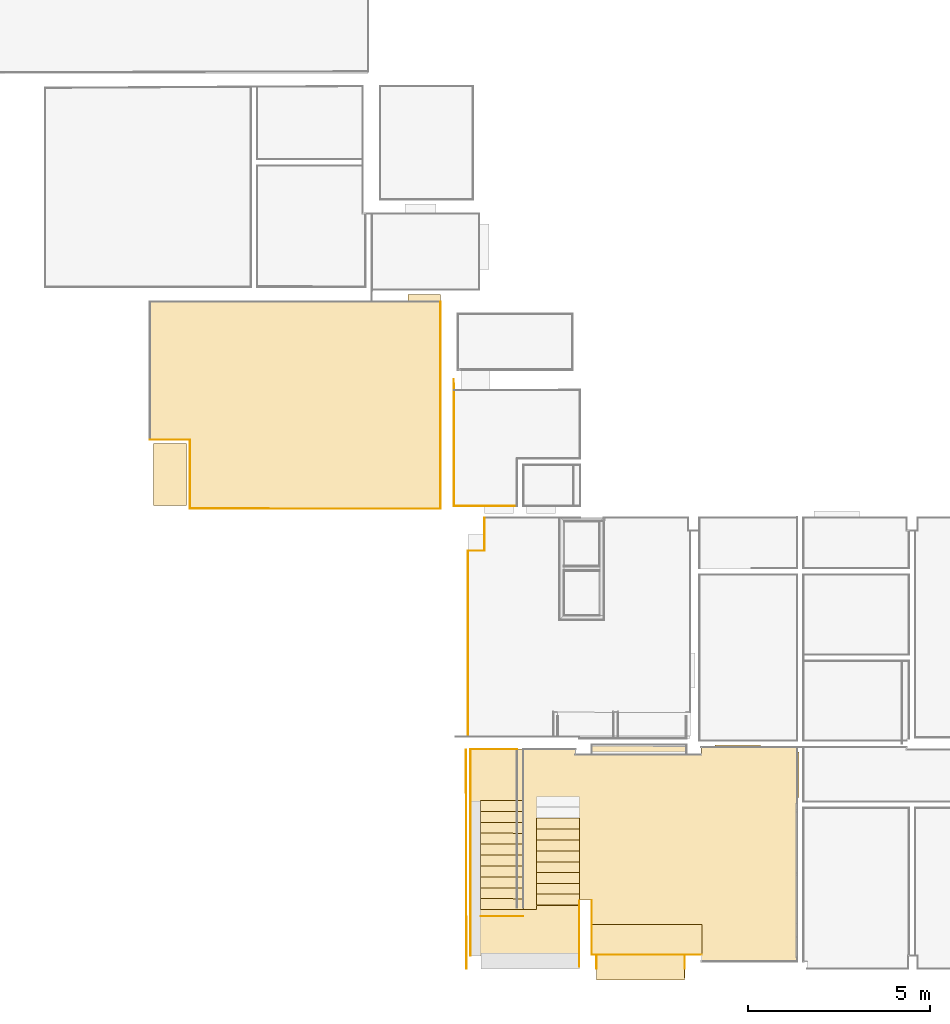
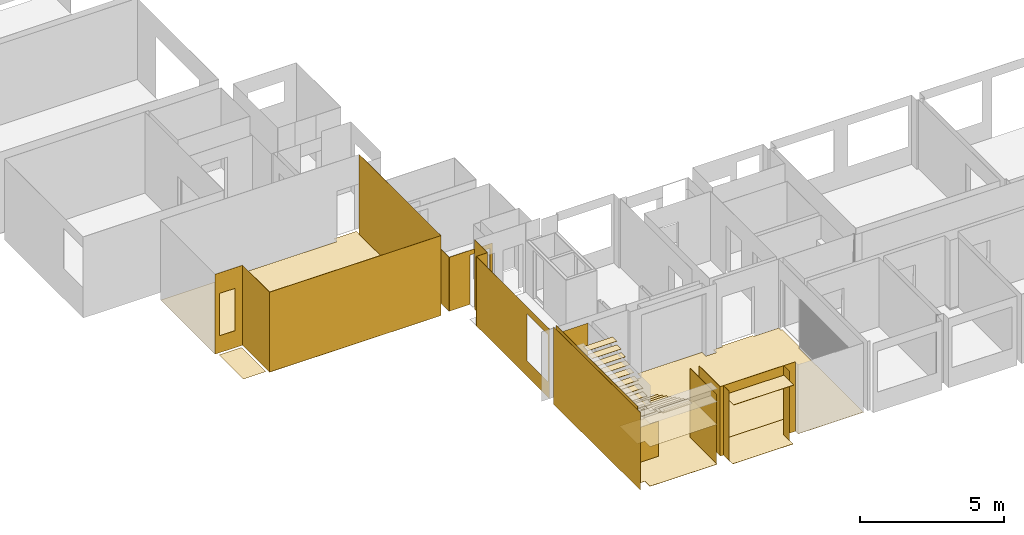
# One storey, part 2 of 33: 42 coverings, 4 openings.
"""IFC2X3 building model written with IfcOpenShell, lengths in millimetres."""

from ifc_helpers import new_model, entity, si_unit, converted_unit, derived_unit, money_unit, direction, frame, origin_with_axes, origin_2d_with_axis, place, context, subcontext, project, spatial, polyline, rectangle, outline, extrude, material, type_object, element, save


model = new_model("IFC2X3")

# Units and contexts
model_context = context("Model", 3, precision=0.01, world=origin_with_axes(), true_north=direction((0.0, 1.0)))
body_context = subcontext(model_context, "Body", "Model", "MODEL_VIEW")
ifc_project = project(units=[si_unit("LENGTHUNIT", "METRE", prefix="MILLI"), si_unit("AREAUNIT", "SQUARE_METRE"), si_unit("VOLUMEUNIT", "CUBIC_METRE"), converted_unit("PLANEANGLEUNIT", "DEGREE", entity("IfcPlaneAngleMeasure", 0.0174532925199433), si_unit("PLANEANGLEUNIT", "RADIAN"), dimensions=[0, 0, 0, 0, 0, 0, 0]), money_unit("EUR"), converted_unit("TIMEUNIT", "Year", entity("IfcTimeMeasure", 31556926.0), si_unit("TIMEUNIT", "SECOND"), dimensions=[0, 0, 1, 0, 0, 0, 0]), si_unit("MASSUNIT", "GRAM", prefix="KILO"), si_unit("THERMODYNAMICTEMPERATUREUNIT", "DEGREE_CELSIUS"), si_unit("LUMINOUSINTENSITYUNIT", "LUMEN"), si_unit("ENERGYUNIT", "JOULE", prefix="MEGA"), derived_unit("THERMALCONDUCTANCEUNIT", [(si_unit("POWERUNIT", "WATT"), 1), (si_unit("LENGTHUNIT", "METRE"), -1), (si_unit("THERMODYNAMICTEMPERATUREUNIT", "KELVIN"), -1)]), derived_unit("SPECIFICHEATCAPACITYUNIT", [(si_unit("ENERGYUNIT", "JOULE"), 1), (si_unit("MASSUNIT", "GRAM", prefix="KILO"), -1), (si_unit("THERMODYNAMICTEMPERATUREUNIT", "KELVIN"), -1)]), derived_unit("MASSDENSITYUNIT", [(si_unit("MASSUNIT", "GRAM", prefix="KILO"), 1), (si_unit("VOLUMEUNIT", "CUBIC_METRE"), -1)])], contexts=[model_context])

# Site, building, storey
site_placement = place(None, origin_with_axes())
site = spatial("IfcSite", under=ifc_project, at=site_placement, Name="Paldiski mnt 245/1, Tallinn, Harjumaa", CompositionType="COMPLEX")
building_placement = place(site_placement, origin_with_axes())
building = spatial("IfcBuilding", under=site, at=building_placement, Name="RKAS Hoone üldnimetus (kasutust iseloomustav) -> IFC Project Manager -> SOLIBRI", CompositionType="ELEMENT")
storey_placement = place(building_placement, origin_with_axes())
storey = spatial("IfcBuildingStorey", under=building, at=storey_placement, Name="Esimene korrus", CompositionType="ELEMENT", Elevation=0.0)

# Coverings
ifc_material_1 = material(Name="SA- PM-7 plaat 15x15")
covering_type_1 = type_object("IfcCoveringType", Name="SA- PM-7 plaat 15x15 8", PredefinedType="FLOORING")
covering_1_placement = place(storey_placement, frame((-45768.8585904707, -10765.39835774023, 1690.0), z_axis=(0.0, 0.0, 1.0), x_axis=(1.0, 0.0, 0.0)))
element("IfcCovering", 1, at=covering_1_placement, inside=storey, type_object=covering_type_1, material=ifc_material_1, Name="PM-7", PredefinedType="FLOORING", context=body_context, shape_type="SweptSolid", body=[
    extrude(outline(polyline([(0.0, 0.0), (-0.07628356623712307, -116.3112699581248), (-1820.075892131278, -115.1176103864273), (-1820.901998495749, -1374.700573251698), (-1520.902063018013, -1374.897330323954), (-1521.141409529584, -1744.685729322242), (1178.861247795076, -1736.668066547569), (1179.999746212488, -0.7739111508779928), (0.0, 0.0)])), origin_with_axes(), (0.0, 0.0, 1.0), 8.0),
])
ifc_material_2 = material(Name="SA- Värv SM10(tumehall)")
covering_type_2 = type_object("IfcCoveringType", Name="SA- Värv SM10(tumehall) 5", PredefinedType="CLADDING")
covering_2_placement = place(storey_placement, frame((-41695.45516723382, -12814.12328755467, 2544.121874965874), z_axis=(0.0, 0.0, 1.0), x_axis=(1.0, 0.0, 0.0)))
element("IfcCovering", 2, at=covering_2_placement, inside=storey, type_object=covering_type_2, material=ifc_material_2, Name="SM10", PredefinedType="CLADDING", context=body_context, shape_type="SweptSolid", body=[
    extrude(outline(polyline([(0.0, 0.0), (0.4550369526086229, 693.813820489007), (-2417.101255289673, 695.3994116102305), (-2416.374271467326, 1.475948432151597), (0.0, 0.0)])), origin_with_axes(), (0.0, 0.0, 1.0), 5.0),
])

# Covering, opening
covering_3_placement = place(storey_placement, frame((-41229.98168134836, -12120.18477017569, 0.0), z_axis=(0.0, 0.0, 1.0), x_axis=(-0.9999998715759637, 0.0005068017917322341, 0.0)))
covering_3 = element("IfcCovering", 3, at=covering_3_placement, inside=storey, type_object=covering_type_2, material=ifc_material_2, Name="SM10", PredefinedType="CLADDING", context=body_context, shape_type="SweptSolid", body=[
    extrude(outline(polyline([(-4.997948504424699, -5.000000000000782), (3014.744217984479, -5.000000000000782), (3019.740751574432, 0.0), (0.0, 0.0), (-4.997948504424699, -5.000000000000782)])), origin_with_axes(), (0.0, 0.0, 1.0), 2950.0),
])
opening_1_placement = place(covering_3_placement, frame((-41223.83385507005, -12141.07864224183, 0.0), z_axis=(0.0, 0.0, 1.0), x_axis=(-0.9999998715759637, -0.0005068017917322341, 0.0)))
element("IfcOpeningElement", 4, at=opening_1_placement, cuts=covering_3, Name="AVA", ObjectType="OPENING", context=body_context, shape_type="SweptSolid", body=[
    extrude(outline(polyline([(-1208.778410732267, -1272.060937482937), (1208.778410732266, -1272.060937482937), (1208.778410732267, 1272.060937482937), (-1208.778410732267, 1272.060937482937), (-1208.778410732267, -1272.060937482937)])), frame((-42903.77197769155, -12107.123951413, 1272.060937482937), z_axis=(0.0005068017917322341, 0.9999998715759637, 0.0), x_axis=(-0.9999998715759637, 0.0005068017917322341, 0.0)), (0.0, 0.0, -1.0), 19.5912306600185),
])

# Coverings
covering_4_placement = place(storey_placement, frame((-41691.32033801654, -12510.23186306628, 0.0), z_axis=(0.0, 0.0, 1.0), x_axis=(0.003384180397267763, 0.9999942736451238, 0.0)))
element("IfcCovering", 5, at=covering_4_placement, inside=storey, type_object=covering_type_2, material=ifc_material_2, Name="SM10", PredefinedType="CLADDING", context=body_context, shape_type="SweptSolid", body=[
    extrude(outline(polyline([(0.0, 0.0), (390.1500101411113, 0.0), (390.1500101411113, 5.000000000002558), (0.0, 5.000000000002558), (0.0, 0.0)])), origin_with_axes(), (0.0, 0.0, 1.0), 2950.0),
])
covering_5_placement = place(storey_placement, frame((-44117.14645403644, -12510.08430107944, 0.0), z_axis=(0.0, 0.0, 1.0), x_axis=(-0.003867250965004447, 0.9999925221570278, 0.0)))
element("IfcCovering", 6, at=covering_5_placement, inside=storey, type_object=covering_type_2, material=ifc_material_2, Name="SM10", PredefinedType="CLADDING", context=body_context, shape_type="SweptSolid", body=[
    extrude(outline(polyline([(-0.01933639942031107, -5.000000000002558), (391.3445745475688, -5.000000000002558), (391.3664449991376, 0.0), (0.0, 0.0), (-0.01933639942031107, -5.000000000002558)])), origin_with_axes(), (0.0, 0.0, 1.0), 2950.0),
])

# Covering, opening
ifc_material_3 = material(Name="SA- Värv SM5(valge)")
covering_type_3 = type_object("IfcCoveringType", Name="SA- Värv SM5(valge) 5", PredefinedType="CLADDING")
covering_6_placement = place(storey_placement, frame((-47650.00000000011, -6130.084087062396, 0.0), z_axis=(0.0, 0.0, 1.0), x_axis=(0.0, 1.0, 0.0)))
covering_6 = element("IfcCovering", 7, at=covering_6_placement, inside=storey, type_object=covering_type_3, material=ifc_material_3, Name="SM5", PredefinedType="CLADDING", context=body_context, shape_type="SweptSolid", body=[
    extrude(outline(polyline([(4.999999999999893, -5.000000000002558), (5110.084087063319, -5.000000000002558), (5115.084087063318, 0.0), (4.999999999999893, 0.0), (4.999999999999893, -5.000000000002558)])), origin_with_axes(), (0.0, 0.0, 1.0), 2950.0),
])
opening_2_placement = place(covering_6_placement, frame((6130.084087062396, -47650.00000000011, 0.0), z_axis=(0.0, 0.0, 1.0), x_axis=(0.0, -1.0, 0.0)))
element("IfcOpeningElement", 8, at=opening_2_placement, cuts=covering_6, Name="AVA", ObjectType="OPENING", context=body_context, shape_type="SweptSolid", body=[
    extrude(rectangle(XDim=1472.206552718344, YDim=2000.0, at=origin_2d_with_axis()), frame((-47640.0000000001, -5286.187360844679, 1650.0), z_axis=(1.0, 0.0, 0.0), x_axis=(0.0, 1.0, 0.0)), (0.0, 0.0, -1.0), 15.00000000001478),
])

# Coverings
covering_7_placement = place(storey_placement, frame((-47650.00000000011, -1014.999999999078, 0.0), z_axis=(0.0, 0.0, 1.0), x_axis=(1.0, 0.0, 0.0)))
element("IfcCovering", 9, at=covering_7_placement, inside=storey, type_object=covering_type_3, material=ifc_material_3, Name="SM5", PredefinedType="CLADDING", context=body_context, shape_type="SweptSolid", body=[
    extrude(outline(polyline([(1.27897692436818e-10, -4.999999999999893), (460.0001318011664, -4.999999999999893), (455.0001310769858, 0.0), (1.27897692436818e-10, 0.0), (1.27897692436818e-10, -4.999999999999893)])), origin_with_axes(), (0.0, 0.0, 1.0), 2950.0),
])
covering_8_placement = place(storey_placement, frame((-47590.00000000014, -6470.084079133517, 0.0), z_axis=(0.0, 0.0, 1.0), x_axis=(1.0, -6.14405201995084e-09, 0.0)))
element("IfcCovering", 10, at=covering_8_placement, inside=storey, type_object=covering_type_3, material=ifc_material_3, Name="SM5", PredefinedType="CLADDING", context=body_context, shape_type="SweptSolid", body=[
    extrude(outline(polyline([(3.073097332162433e-08, -4.999999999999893), (1290.000000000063, -4.999999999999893), (1290.000000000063, 0.0), (0.0, 0.0), (3.073097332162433e-08, -4.999999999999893)])), origin_with_axes(), (0.0, 0.0, 1.0), 2950.0),
])
covering_9_placement = place(storey_placement, frame((-47705.60058258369, -6479.999968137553, 0.0), z_axis=(0.0, 0.0, 1.0), x_axis=(0.002610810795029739, -0.9999965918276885, 0.0)))
element("IfcCovering", 11, at=covering_9_placement, inside=storey, type_object=covering_type_3, material=ifc_material_3, Name="SM5", PredefinedType="CLADDING", context=body_context, shape_type="SweptSolid", body=[
    extrude(outline(polyline([(0.0, 0.0), (6030.104670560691, 0.0), (6030.104670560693, 5.000000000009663), (0.0, 5.000000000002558), (0.0, 0.0)])), origin_with_axes(), (0.0, 0.0, 1.0), 3300.0),
])
covering_10_placement = place(storey_placement, frame((-47194.99986892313, -1014.999999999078, 0.0), z_axis=(0.0, 0.0, 1.0), x_axis=(-1.448363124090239e-07, 0.9999999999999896, 0.0)))
element("IfcCovering", 12, at=covering_10_placement, inside=storey, type_object=covering_type_3, material=ifc_material_3, Name="SM5", PredefinedType="CLADDING", context=body_context, shape_type="SweptSolid", body=[
    extrude(outline(polyline([(-5.000000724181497, -5.000000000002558), (900.0000265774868, -5.000000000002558), (905.000027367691, 0.0), (0.0, 0.0), (-5.000000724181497, -5.000000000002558)])), origin_with_axes(), (0.0, 0.0, 1.0), 2950.0),
])
covering_11_placement = place(storey_placement, frame((-44590.00000000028, -10630.04021393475, 0.0), z_axis=(0.0, 0.0, 1.0), x_axis=(3.839271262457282e-06, -0.99999999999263, 0.0)))
element("IfcCovering", 13, at=covering_11_placement, inside=storey, type_object=covering_type_3, material=ifc_material_3, Name="SM5", PredefinedType="CLADDING", context=body_context, shape_type="SweptSolid", body=[
    extrude(outline(polyline([(0.0, -5.000000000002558), (1818.433020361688, -5.000000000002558), (1818.433020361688, 0.0), (0.0, 0.0), (0.0, -5.000000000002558)])), origin_with_axes(), (0.0, 0.0, 1.0), 2950.0),
])
covering_12_placement = place(storey_placement, frame((-44249.7220451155, -12118.65436015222, 0.0), z_axis=(0.0, 0.0, 1.0), x_axis=(-0.0001867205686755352, 0.9999999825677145, 0.0)))
element("IfcCovering", 14, at=covering_12_placement, inside=storey, type_object=covering_type_3, material=ifc_material_3, Name="SM5", PredefinedType="CLADDING", context=body_context, shape_type="SweptSolid", body=[
    extrude(outline(polyline([(4.996533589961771, -5.000000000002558), (1493.613238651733, -5.000000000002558), (1488.614172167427, 0.0), (0.0, 0.0), (4.996533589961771, -5.000000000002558)])), origin_with_axes(), (0.0, 0.0, 1.0), 2950.0),
])
covering_13_placement = place(storey_placement, frame((-46130.00000000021, -11060.50085329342, 0.0), z_axis=(0.0, 0.0, 1.0), x_axis=(-0.9999960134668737, -0.002823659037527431, 0.0)))
element("IfcCovering", 15, at=covering_13_placement, inside=storey, type_object=covering_type_3, material=ifc_material_3, Name="SM6", PredefinedType="CLADDING", context=body_context, shape_type="SweptSolid", body=[
    extrude(outline(polyline([(0.0, 0.0), (1162.805002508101, 0.0), (1162.805002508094, 4.999999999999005), (0.0, 5.000000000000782), (0.0, 0.0)])), origin_with_axes(), (0.0, 0.0, 1.0), 1500.0),
])
ifc_material_4 = material(Name="SA- PM-4 porivaip")
covering_type_4 = type_object("IfcCoveringType", Name="SA- PM-4 porivaip 10", PredefinedType="FLOORING")
covering_14_placement = place(storey_placement, frame((-44249.74580537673, -12118.64066354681, 0.0), z_axis=(0.0, 0.0, 1.0), x_axis=(1.0, 0.0, 0.0)))
element("IfcCovering", 16, at=covering_14_placement, inside=storey, type_object=covering_type_4, material=ifc_material_4, Name="PM-4", PredefinedType="FLOORING", context=body_context, shape_type="SweptSolid", body=[
    extrude(outline(polyline([(0.0, 0.0), (131.085845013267, -0.08011911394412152), (131.085845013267, -27.64322602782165), (131.1606288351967, -27.64300023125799), (132.8261494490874, -641.4436375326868), (2562.599354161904, -641.4436375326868), (2559.745782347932, -1.443418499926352), (3029.614116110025, -1.443418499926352), (3030.597911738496, 822.9868016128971), (0.541064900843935, 824.9740823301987), (0.0, 0.0)])), origin_with_axes(), (0.0, 0.0, 1.0), 10.0),
])
ifc_material_5 = material(Name="SA- PM-5 plaat 30x30")
covering_type_5 = type_object("IfcCoveringType", Name="SA- PM-5 plaat 30x30 8", PredefinedType="FLOORING")
covering_15_placement = place(storey_placement, frame((-47306.96697210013, -7880.700253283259, 3149.090909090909), z_axis=(0.0, 0.0, 1.0), x_axis=(1.0, 0.0, 0.0)))
element("IfcCovering", 17, at=covering_15_placement, inside=storey, type_object=covering_type_5, material=ifc_material_5, Name="PM-5", PredefinedType="FLOORING", context=body_context, shape_type="SweptSolid", body=[
    extrude(outline(polyline([(0.0, 0.0), (-0.1967570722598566, -299.9999354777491), (1179.802989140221, -300.7738466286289), (1179.999746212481, -0.7739111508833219), (0.0, 0.0)])), origin_with_axes(), (0.0, 0.0, 1.0), 8.0),
])
covering_16_placement = place(storey_placement, frame((-47307.16372917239, -8180.700188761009, 2998.181818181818), z_axis=(0.0, 0.0, 1.0), x_axis=(1.0, 0.0, 0.0)))
element("IfcCovering", 18, at=covering_16_placement, inside=storey, type_object=covering_type_5, material=ifc_material_5, Name="PM-5", PredefinedType="FLOORING", context=body_context, shape_type="SweptSolid", body=[
    extrude(outline(polyline([(0.0, 0.0), (-0.1967570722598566, -299.9999354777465), (1179.802989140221, -300.7738466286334), (1179.999746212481, -0.7739111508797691), (0.0, 0.0)])), origin_with_axes(), (0.0, 0.0, 1.0), 8.0),
])
covering_17_placement = place(storey_placement, frame((-47307.36048624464, -8480.700124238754, 2847.272727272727), z_axis=(0.0, 0.0, 1.0), x_axis=(1.0, 0.0, 0.0)))
element("IfcCovering", 19, at=covering_17_placement, inside=storey, type_object=covering_type_5, material=ifc_material_5, Name="PM-5", PredefinedType="FLOORING", context=body_context, shape_type="SweptSolid", body=[
    extrude(outline(polyline([(0.0, 0.0), (-0.1967570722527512, -299.9999354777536), (1179.802989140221, -300.7738466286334), (1179.999746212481, -0.7739111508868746), (0.0, 0.0)])), origin_with_axes(), (0.0, 0.0, 1.0), 8.0),
])
covering_18_placement = place(storey_placement, frame((-47307.5572433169, -8780.700059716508, 2696.363636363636), z_axis=(0.0, 0.0, 1.0), x_axis=(1.0, 0.0, 0.0)))
element("IfcCovering", 20, at=covering_18_placement, inside=storey, type_object=covering_type_5, material=ifc_material_5, Name="PM-5", PredefinedType="FLOORING", context=body_context, shape_type="SweptSolid", body=[
    extrude(outline(polyline([(0.0, 0.0), (-0.1967570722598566, -299.9999354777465), (1179.802989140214, -300.7738466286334), (1179.999746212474, -0.7739111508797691), (0.0, 0.0)])), origin_with_axes(), (0.0, 0.0, 1.0), 8.0),
])
covering_19_placement = place(storey_placement, frame((-47307.95075746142, -9380.699930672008, 2394.545454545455), z_axis=(0.0, 0.0, 1.0), x_axis=(1.0, 0.0, 0.0)))
element("IfcCovering", 21, at=covering_19_placement, inside=storey, type_object=covering_type_5, material=ifc_material_5, Name="PM-5", PredefinedType="FLOORING", context=body_context, shape_type="SweptSolid", body=[
    extrude(outline(polyline([(0.0, 0.0), (-0.1967570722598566, -299.9999354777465), (1179.802989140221, -300.7738466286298), (1179.999746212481, -0.7739111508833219), (0.0, 0.0)])), origin_with_axes(), (0.0, 0.0, 1.0), 8.0),
])
covering_20_placement = place(storey_placement, frame((-47307.75400038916, -9080.699995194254, 2545.454545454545), z_axis=(0.0, 0.0, 1.0), x_axis=(1.0, 0.0, 0.0)))
element("IfcCovering", 22, at=covering_20_placement, inside=storey, type_object=covering_type_5, material=ifc_material_5, Name="PM-5", PredefinedType="FLOORING", context=body_context, shape_type="SweptSolid", body=[
    extrude(outline(polyline([(0.0, 0.0), (-0.1967570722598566, -299.9999354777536), (1179.802989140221, -300.7738466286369), (1179.999746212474, -0.7739111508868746), (0.0, 0.0)])), origin_with_axes(), (0.0, 0.0, 1.0), 8.0),
])
covering_21_placement = place(storey_placement, frame((-47308.14751453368, -9680.699866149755, 2243.636363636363), z_axis=(0.0, 0.0, 1.0), x_axis=(1.0, 0.0, 0.0)))
element("IfcCovering", 23, at=covering_21_placement, inside=storey, type_object=covering_type_5, material=ifc_material_5, Name="PM-5", PredefinedType="FLOORING", context=body_context, shape_type="SweptSolid", body=[
    extrude(outline(polyline([(0.0, 0.0), (-0.1967570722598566, -299.9999354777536), (1179.802989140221, -300.7738466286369), (1179.999746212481, -0.7739111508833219), (0.0, 0.0)])), origin_with_axes(), (0.0, 0.0, 1.0), 8.0),
])
covering_22_placement = place(storey_placement, frame((-47308.34427160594, -9980.699801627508, 2092.727272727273), z_axis=(0.0, 0.0, 1.0), x_axis=(1.0, 0.0, 0.0)))
element("IfcCovering", 24, at=covering_22_placement, inside=storey, type_object=covering_type_5, material=ifc_material_5, Name="PM-5", PredefinedType="FLOORING", context=body_context, shape_type="SweptSolid", body=[
    extrude(outline(polyline([(0.0, 0.0), (-0.1967570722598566, -299.9999354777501), (1179.802989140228, -300.7738466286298), (1179.999746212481, -0.7739111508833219), (0.0, 0.0)])), origin_with_axes(), (0.0, 0.0, 1.0), 8.0),
])
covering_23_placement = place(storey_placement, frame((-47308.73778575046, -10580.69967258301, 1790.909090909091), z_axis=(0.0, 0.0, 1.0), x_axis=(1.0, 0.0, 0.0)))
element("IfcCovering", 25, at=covering_23_placement, inside=storey, type_object=covering_type_5, material=ifc_material_5, Name="PM-5", PredefinedType="FLOORING", context=body_context, shape_type="SweptSolid", body=[
    extrude(outline(polyline([(0.0, 0.0), (-0.1967570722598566, -299.9999354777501), (1179.802989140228, -300.7738466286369), (1179.999746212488, -0.7739111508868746), (0.0, 0.0)])), origin_with_axes(), (0.0, 0.0, 1.0), 8.0),
])
covering_24_placement = place(storey_placement, frame((-47308.5410286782, -10280.69973710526, 1941.818181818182), z_axis=(0.0, 0.0, 1.0), x_axis=(1.0, 0.0, 0.0)))
element("IfcCovering", 26, at=covering_24_placement, inside=storey, type_object=covering_type_5, material=ifc_material_5, Name="PM-5", PredefinedType="FLOORING", context=body_context, shape_type="SweptSolid", body=[
    extrude(outline(polyline([(0.0, 0.0), (-0.1967570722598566, -299.9999354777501), (1179.802989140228, -300.7738466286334), (1179.999746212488, -0.7739111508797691), (0.0, 0.0)])), origin_with_axes(), (0.0, 0.0, 1.0), 8.0),
])
covering_25_placement = place(storey_placement, frame((-45768.65606718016, -10456.60653949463, 1536.363636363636), z_axis=(0.0, 0.0, 1.0), x_axis=(1.0, 0.0, 0.0)))
element("IfcCovering", 27, at=covering_25_placement, inside=storey, type_object=covering_type_5, material=ifc_material_5, Name="PM-5", PredefinedType="FLOORING", context=body_context, shape_type="SweptSolid", body=[
    extrude(outline(polyline([(0.0, 0.0), (-0.1967570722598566, -299.9999354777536), (1179.802989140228, -300.7738466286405), (1179.999746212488, -0.7739111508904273), (0.0, 0.0)])), origin_with_axes(), (0.0, 0.0, 1.0), 8.0),
])
covering_26_placement = place(storey_placement, frame((-45769.80298914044, -10164.62382703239, 1382.727272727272), z_axis=(0.0, 0.0, 1.0), x_axis=(1.0, 0.0, 0.0)))
element("IfcCovering", 28, at=covering_26_placement, inside=storey, type_object=covering_type_5, material=ifc_material_5, Name="PM-5", PredefinedType="FLOORING", context=body_context, shape_type="SweptSolid", body=[
    extrude(outline(polyline([(0.0, 0.0), (-0.1967570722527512, -299.9999354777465), (1179.802989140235, -300.7738466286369), (1179.999746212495, -0.7739111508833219), (0.0, 0.0)])), origin_with_axes(), (0.0, 0.0, 1.0), 8.0),
])
covering_27_placement = place(storey_placement, frame((-45769.80298914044, -9864.623827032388, 1229.090909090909), z_axis=(0.0, 0.0, 1.0), x_axis=(1.0, 0.0, 0.0)))
element("IfcCovering", 29, at=covering_27_placement, inside=storey, type_object=covering_type_5, material=ifc_material_5, Name="PM-5", PredefinedType="FLOORING", context=body_context, shape_type="SweptSolid", body=[
    extrude(outline(polyline([(0.0, 0.0), (-0.1967570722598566, -299.9999354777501), (1179.802989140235, -300.7738466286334), (1179.999746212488, -0.7739111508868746), (0.0, 0.0)])), origin_with_axes(), (0.0, 0.0, 1.0), 8.0),
])
covering_28_placement = place(storey_placement, frame((-45769.80298914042, -9564.623827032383, 1075.454545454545), z_axis=(0.0, 0.0, 1.0), x_axis=(1.0, 0.0, 0.0)))
element("IfcCovering", 30, at=covering_28_placement, inside=storey, type_object=covering_type_5, material=ifc_material_5, Name="PM-5", PredefinedType="FLOORING", context=body_context, shape_type="SweptSolid", body=[
    extrude(outline(polyline([(0.0, 0.0), (-0.1967570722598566, -299.9999354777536), (1179.802989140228, -300.7738466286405), (1179.999746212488, -0.7739111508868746), (0.0, 0.0)])), origin_with_axes(), (0.0, 0.0, 1.0), 8.0),
])
covering_29_placement = place(storey_placement, frame((-45769.80298914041, -9264.62382703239, 921.8181818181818), z_axis=(0.0, 0.0, 1.0), x_axis=(1.0, 0.0, 0.0)))
element("IfcCovering", 31, at=covering_29_placement, inside=storey, type_object=covering_type_5, material=ifc_material_5, Name="PM-5", PredefinedType="FLOORING", context=body_context, shape_type="SweptSolid", body=[
    extrude(outline(polyline([(0.0, 0.0), (-0.1967570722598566, -299.9999354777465), (1179.802989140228, -300.7738466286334), (1179.999746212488, -0.7739111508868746), (0.0, 0.0)])), origin_with_axes(), (0.0, 0.0, 1.0), 8.0),
])
covering_30_placement = place(storey_placement, frame((-45769.80298914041, -8964.623827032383, 768.1818181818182), z_axis=(0.0, 0.0, 1.0), x_axis=(1.0, 0.0, 0.0)))
element("IfcCovering", 32, at=covering_30_placement, inside=storey, type_object=covering_type_5, material=ifc_material_5, Name="PM-5", PredefinedType="FLOORING", context=body_context, shape_type="SweptSolid", body=[
    extrude(outline(polyline([(0.0, 0.0), (-0.1967570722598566, -299.9999354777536), (1179.802989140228, -300.7738466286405), (1179.999746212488, -0.7739111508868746), (0.0, 0.0)])), origin_with_axes(), (0.0, 0.0, 1.0), 8.0),
])
covering_31_placement = place(storey_placement, frame((-45769.8029891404, -8364.623827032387, 460.9090909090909), z_axis=(0.0, 0.0, 1.0), x_axis=(1.0, 0.0, 0.0)))
element("IfcCovering", 33, at=covering_31_placement, inside=storey, type_object=covering_type_5, material=ifc_material_5, Name="PM-5", PredefinedType="FLOORING", context=body_context, shape_type="SweptSolid", body=[
    extrude(outline(polyline([(0.0, 0.0), (-0.1967570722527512, -299.9999354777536), (1179.802989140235, -300.7738466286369), (1179.999746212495, -0.7739111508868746), (0.0, 0.0)])), origin_with_axes(), (0.0, 0.0, 1.0), 8.0),
])
covering_32_placement = place(storey_placement, frame((-45769.8029891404, -8664.62382703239, 614.5454545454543), z_axis=(0.0, 0.0, 1.0), x_axis=(1.0, 0.0, 0.0)))
element("IfcCovering", 34, at=covering_32_placement, inside=storey, type_object=covering_type_5, material=ifc_material_5, Name="PM-5", PredefinedType="FLOORING", context=body_context, shape_type="SweptSolid", body=[
    extrude(outline(polyline([(0.0, 0.0), (-0.1967570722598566, -299.9999354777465), (1179.802989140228, -300.7738466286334), (1179.999746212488, -0.7739111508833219), (0.0, 0.0)])), origin_with_axes(), (0.0, 0.0, 1.0), 8.0),
])
ifc_material_6 = material(Name="SA- PM-6 vinüül")
covering_type_6 = type_object("IfcCoveringType", Name="SA- PM-6 vinüül 3", PredefinedType="FLOORING")
covering_33_placement = place(storey_placement, frame((-56389.99999999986, 5830.000000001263, 0.0), z_axis=(0.0, 0.0, 1.0), x_axis=(1.0, 0.0, 0.0)))
element("IfcCovering", 35, at=covering_33_placement, inside=storey, type_object=covering_type_6, material=ifc_material_6, Name="PM-6", PredefinedType="FLOORING", context=body_context, shape_type="SweptSolid", body=[
    extrude(outline(polyline([(0.0, 0.0), (0.0, -3800.000078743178), (1100.000023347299, -3800.000078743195), (1100.000023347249, -5699.999999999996), (7989.999999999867, -5700.000000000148), (7989.999999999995, 199.9999999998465), (7089.501625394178, 199.999999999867), (7089.999999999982, -1.616484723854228e-10), (0.0, 0.0)])), origin_with_axes(), (0.0, 0.0, 1.0), 3.0),
])
ifc_material_7 = material(Name="SA- PM-1 plaatpõrand")
covering_type_7 = type_object("IfcCoveringType", Name="SA- PM-1 plaatpõrand 8", PredefinedType="FLOORING")
covering_34_placement = place(storey_placement, frame((-47589.76058896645, -12140.09889131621, 0.0), z_axis=(0.0, 0.0, 1.0), x_axis=(1.0, 0.0, 0.0)))
element("IfcCovering", 36, at=covering_34_placement, inside=storey, type_object=covering_type_7, material=ifc_material_7, Name="PM-1", PredefinedType="FLOORING", context=body_context, shape_type="SweptSolid", body=[
    extrude(outline(polyline([(0.0, 0.0), (299.9999564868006, -0.1968355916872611), (298.9462119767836, -353.8745320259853), (2999.762822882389, -361.9210631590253), (3000.99628098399, 1518.075895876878), (3340.996330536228, 1517.852905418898), (3340.555776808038, 846.4323524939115), (6370.080408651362, 844.4453527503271), (6359.760597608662, 20.01480425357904), (6359.760663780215, -169.9851946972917), (8989.760490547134, -169.9852067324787), (8989.760499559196, 4335.098934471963), (9044.628857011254, 4335.41281776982), (9044.561109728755, 5585.110535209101), (8989.760499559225, 5585.098934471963), (8989.760499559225, 5725.098891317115), (7974.760615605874, 5725.098891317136), (7974.597757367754, 5781.868733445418), (6724.799926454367, 5780.246956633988), (6724.760615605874, 5725.098891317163), (6354.750938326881, 5725.098891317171), (6354.750938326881, 5515.469076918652), (5944.760611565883, 5515.469076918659), (5944.760611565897, 5790.098891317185), (3344.88554675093, 5790.09889131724), (3344.885550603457, 5517.345533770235), (3149.760589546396, 5517.345567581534), (3149.760589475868, 5517.670104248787), (2894.718800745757, 5517.67010424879), (2894.718800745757, 5670.014804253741), (-0.2394110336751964, 5670.014804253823), (0.0, 0.0)])), origin_with_axes(), (0.0, 0.0, 1.0), 8.0),
])
ifc_material_8 = material(Name="SA- PM-8 EPO lakk")
covering_type_8 = type_object("IfcCoveringType", Name="SA- PM-8 EPO lakk 1", PredefinedType="FLOORING")
covering_35_placement = place(storey_placement, frame((-56289.99999999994, 230.0000000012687, 0.0), z_axis=(0.0, 0.0, 1.0), x_axis=(1.0, 0.0, 0.0)))
element("IfcCovering", 37, at=covering_35_placement, inside=storey, type_object=covering_type_8, material=ifc_material_8, Name="PM-8", PredefinedType="FLOORING", context=body_context, shape_type="SweptSolid", body=[
    extrude(outline(polyline([(0.0, 0.0), (900.0000233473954, 0.0), (900.0000233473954, 1699.999921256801), (0.0, 1699.999921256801), (0.0, 0.0)])), origin_with_axes(), (0.0, 0.0, 1.0), 1.0),
])
ifc_material_9 = material(Name="KON-00_GENEERILINE - KONSTRUKTSIOON")
covering_type_9 = type_object("IfcCoveringType", Name="KON-00_GENEERILINE - KONSTRUKTSIOON 20", PredefinedType="CLADDING")
covering_36_placement = place(storey_placement, frame((-47590.00000000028, -12150.08408706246, 0.0), z_axis=(0.0, 0.0, 1.0), x_axis=(0.0, 1.0, 0.0)))
element("IfcCovering", 38, at=covering_36_placement, inside=storey, type_object=covering_type_9, material=ifc_material_9, Name="SM-1", PredefinedType="CLADDING", context=body_context, shape_type="SweptSolid", body=[
    extrude(outline(polyline([(0.0, -20.00000000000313), (5680.000000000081, -20.00000000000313), (5680.000000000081, 0.0), (0.0, 0.0), (0.0, -20.00000000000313)])), origin_with_axes(), (0.0, 0.0, 1.0), 3300.0),
])

# Covering, opening
ifc_material_10 = material(Name="SA- Plaat SM11(tumehall)")
covering_type_10 = type_object("IfcCoveringType", Name="SA- Plaat SM11(tumehall) 11", PredefinedType="CLADDING")
covering_37_placement = place(storey_placement, frame((-46294.99999999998, 210.0000000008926, 0.0), z_axis=(0.0, 0.0, 1.0), x_axis=(-1.0, 0.0, 0.0)))
covering_37 = element("IfcCovering", 39, at=covering_37_placement, inside=storey, type_object=covering_type_10, material=ifc_material_10, Name="SM11", PredefinedType="CLADDING", context=body_context, shape_type="SweptSolid", body=[
    extrude(outline(polyline([(0.0, -11.00000000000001), (1724.486266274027, -11.00000000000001), (1724.486266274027, 0.0), (0.0, 0.0), (0.0, -11.00000000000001)])), origin_with_axes(), (0.0, 0.0, 1.0), 2300.0),
])
opening_3_placement = place(covering_37_placement, frame((-46294.99999999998, 210.0000000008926, 0.0), z_axis=(0.0, 0.0, 1.0), x_axis=(-1.0, 0.0, 0.0)))
element("IfcOpeningElement", 40, at=opening_3_placement, cuts=covering_37, Name="AVA", ObjectType="OPENING", context=body_context, shape_type="SweptSolid", body=[
    extrude(rectangle(XDim=800.0000000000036, YDim=2122.373849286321, at=origin_2d_with_axis()), frame((-46794.99999999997, 232.000000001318, 1038.81307535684), z_axis=(0.0, 1.0, 0.0), x_axis=(-1.0, 0.0, 0.0)), (0.0, 0.0, -1.0), 33.00000000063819),
])

ifc_material_11 = material(Name="SA- Värv SM12(tolmutõke)")
covering_type_11 = type_object("IfcCoveringType", Name="SA- Värv SM12(tolmutõke) 5", PredefinedType="CLADDING")
covering_38_placement = place(storey_placement, frame((-56389.99999999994, 2029.999921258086, 0.0), z_axis=(0.0, 0.0, 1.0), x_axis=(1.0, 0.0, 0.0)))
covering_38 = element("IfcCovering", 41, at=covering_38_placement, inside=storey, type_object=covering_type_11, material=ifc_material_11, Name="SM12", PredefinedType="CLADDING", context=body_context, shape_type="SweptSolid", body=[
    extrude(outline(polyline([(0.0, 0.0), (1100.000023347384, 0.0), (1105.000023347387, 5.000000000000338), (0.0, 4.999999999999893), (0.0, 0.0)])), origin_with_axes(), (0.0, 0.0, 1.0), 3400.0),
])
opening_4_placement = place(covering_38_placement, frame((56389.99999999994, -2029.999921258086, 0.0), z_axis=(0.0, 0.0, 1.0), x_axis=(1.0, 0.0, 0.0)))
element("IfcOpeningElement", 42, at=opening_4_placement, cuts=covering_38, Name="AVA", ObjectType="OPENING", context=body_context, shape_type="SweptSolid", body=[
    extrude(rectangle(XDim=633.2990985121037, YDim=1800.0, at=origin_2d_with_axis()), frame((-55906.64952590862, 2024.99992125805, 1623.0), z_axis=(0.0, -1.0, 0.0), x_axis=(1.0, 0.0, 0.0)), (0.0, 0.0, -1.0), 15.00000000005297),
])

# Coverings
covering_39_placement = place(storey_placement, frame((-55289.99997665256, 2029.999921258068, 0.0), z_axis=(0.0, 0.0, 1.0), x_axis=(0.0, -1.0, 0.0)))
element("IfcCovering", 43, at=covering_39_placement, inside=storey, type_object=covering_type_11, material=ifc_material_11, Name="SM12", PredefinedType="CLADDING", context=body_context, shape_type="SweptSolid", body=[
    extrude(outline(polyline([(0.0, 0.0), (1887.9999212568, 0.0), (1883.008621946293, 5.000000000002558), (-4.999999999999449, 5.000000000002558), (0.0, 0.0)])), origin_with_axes(), (0.0, 0.0, 1.0), 3400.0),
])
covering_40_placement = place(storey_placement, frame((-48399.99999999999, 130.0000000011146, 0.0), z_axis=(0.0, 0.0, 1.0), x_axis=(0.0, 1.0, 0.0)))
element("IfcCovering", 44, at=covering_40_placement, inside=storey, type_object=covering_type_11, material=ifc_material_11, Name="SM12", PredefinedType="CLADDING", context=body_context, shape_type="SweptSolid", body=[
    extrude(outline(polyline([(0.0, 0.0), (5699.999999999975, 0.0), (5694.999999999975, 5.000000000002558), (5.008715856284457, 5.000000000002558), (0.0, 0.0)])), origin_with_axes(), (0.0, 0.0, 1.0), 3400.0),
])
covering_41_placement = place(storey_placement, frame((-55289.99997665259, 142.0000000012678, 0.0), z_axis=(0.0, 0.0, 1.0), x_axis=(0.9999984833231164, -0.001741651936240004, 0.0)))
element("IfcCovering", 45, at=covering_41_placement, inside=storey, type_object=covering_type_11, material=ifc_material_11, Name="SM12", PredefinedType="CLADDING", context=body_context, shape_type="SweptSolid", body=[
    extrude(outline(polyline([(0.0, 0.0), (6890.010426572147, 0.0), (6885.001710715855, 4.99999999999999), (4.99129931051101, 4.99999999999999), (0.0, 0.0)])), origin_with_axes(), (0.0, 0.0, 1.0), 3400.0),
])
ifc_material_12 = material(Name="SA- Laudis SM3(vert. laudis)")
covering_type_12 = type_object("IfcCoveringType", Name="SA- Laudis SM3(vert. laudis) 18", PredefinedType="CLADDING")
covering_42_placement = place(storey_placement, frame((-48037.48626627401, 3398.953964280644, 0.0), z_axis=(0.0, 0.0, 1.0), x_axis=(0.0, -1.0, 0.0)))
element("IfcCovering", 46, at=covering_42_placement, inside=storey, type_object=covering_type_12, material=ifc_material_12, Name="SM3", PredefinedType="CLADDING", context=body_context, shape_type="SweptSolid", body=[
    extrude(outline(polyline([(-299.9999999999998, 0.0), (3188.953964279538, 0.0), (3188.953964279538, 18.00000000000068), (0.0, 18.00000000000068), (-299.9999999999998, 0.0)])), origin_with_axes(), (0.0, 0.0, 1.0), 2300.0),
])

save(model, "model.ifc")
